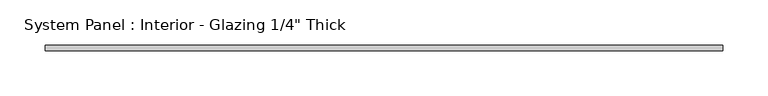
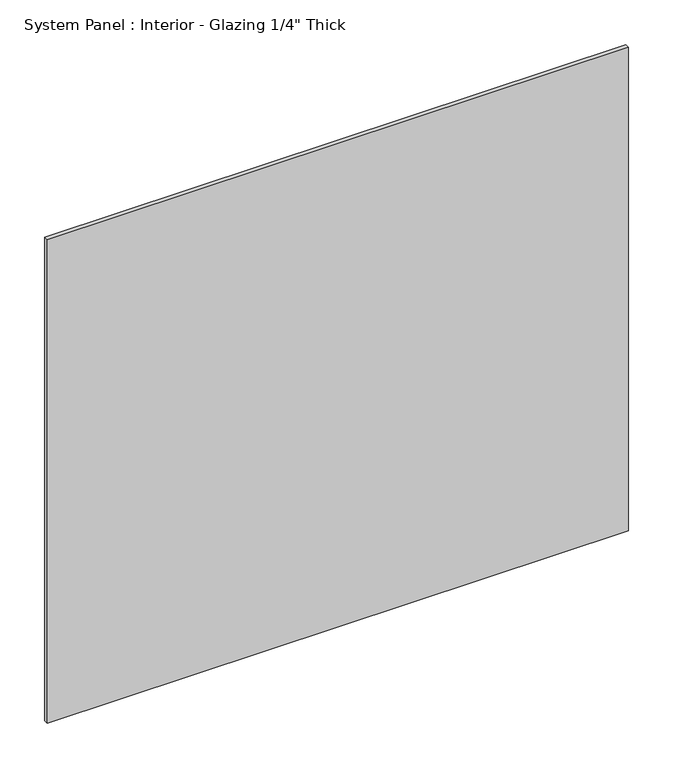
"""IFC4 building model written with IfcOpenShell, lengths in millimetres: plate geometry."""

from ifc_helpers import new_model, si_unit, origin, origin_with_axes, place, context, project, spatial, polyline, outline, extrude, source, transform, mapped, element, save


def plate_1455caec(model_context):
    return source(origin(), model_context, "Body", "SweptSolid", [
        extrude(outline(polyline([(376.2375, -3.175), (-376.2375, -3.175), (-376.2375, 3.175), (376.2375, 3.175), (376.2375, -3.175)])), origin_with_axes(), (0.0, 0.0, 1.0), 661.4292721),
    ])


if __name__ == "__main__":
    model = new_model("IFC4")
    model_context = context("Model", 3, world=origin())
    ifc_project = project(units=[si_unit("LENGTHUNIT", "METRE", prefix="MILLI")], contexts=[model_context])
    site = spatial("IfcSite", under=ifc_project)
    building = spatial("IfcBuilding", under=site)
    placement = place(None, origin())
    plate_shape = plate_1455caec(model_context)
    element("IfcPlate", 1, ObjectType="System Panel : Interior - Glazing 1/4\" Thick", at=placement, inside=building, context=model_context, shape_type="MappedRepresentation", body=[
        mapped(plate_shape, transform((0.0, 0.0, 0.0), x_axis=(1.0, 0.0, 0.0), y_axis=(0.0, 1.0, 0.0), z_axis=(0.0, 0.0, 1.0))),
    ])
    save(model, "model.ifc")
